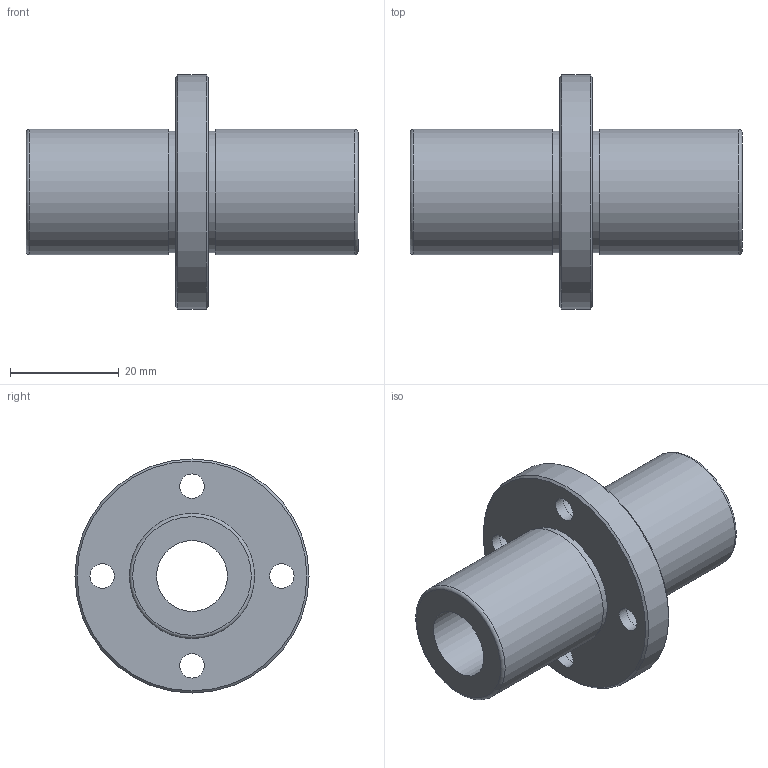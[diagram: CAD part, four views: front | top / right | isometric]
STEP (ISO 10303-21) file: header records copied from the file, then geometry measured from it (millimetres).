
FILE_DESCRIPTION(('STEP AP203'),'1');
FILE_NAME('//192.168.1.1/share/s-4 技術開発/s-4-4_CAD/s-4-4-3_見直し済み/002 修正済み/NFCD-VL/NFCD-VL_TOP/NFCD-13VLUU.step','2022-03-08T04:19:36',(' '),(' '),'Spatial InterOp 3D',' ',' ');
FILE_SCHEMA(('CONFIG_CONTROL_DESIGN'));
Length unit declared in the file: millimetre
Products named in the file (1): 1
Bounding box: 61 x 43 x 43 mm (x, y, z)
Volume: 22520 mm3; surface area: 10273.7 mm2
Topology: 1 solids, 1 shells, 28 faces, 56 edges, 38 vertices
Faces by surface type: cylinder 14, plane 10, torus 2, cone 2
Full cylindrical faces by diameter (mm): 4.5 x4, 7.5 x4, 13 x1, 22.3 x2, 23 x2, 43 x1
Entity records: 668 total; most frequent: DIRECTION 122, CARTESIAN_POINT 93, EDGE_LOOP 64, ORIENTED_EDGE 64, AXIS2_PLACEMENT_3D 61, FACE_OUTER_BOUND 44, EDGE_CURVE 32, VERTEX_POINT 32
